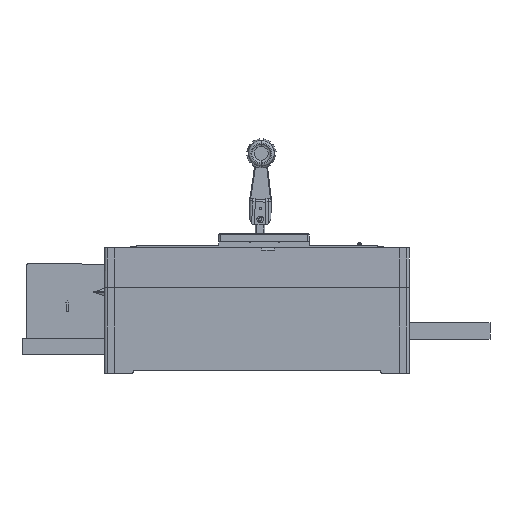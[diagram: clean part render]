
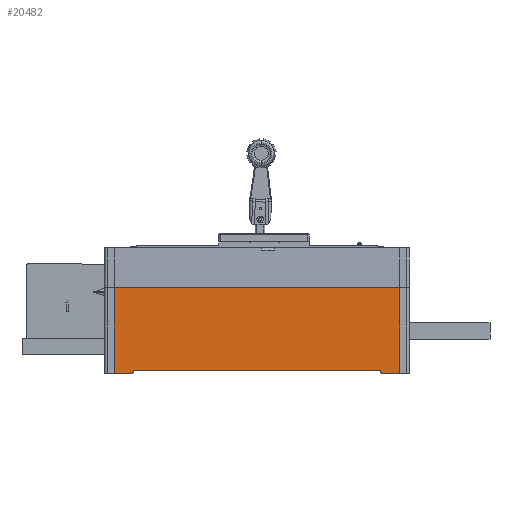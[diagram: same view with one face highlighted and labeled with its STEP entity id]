
A CAD part, front view. The second image highlights one B-rep face of the part: STEP entity #20482.
In plain terms, the highlighted planar face has unit normal (0, -1, 0).
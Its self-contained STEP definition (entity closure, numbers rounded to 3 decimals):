
#4249=CIRCLE('',#140536,3.);
#4250=CIRCLE('',#140537,3.);
#20482=ADVANCED_FACE('',(#30952),#24575,.T.);
#24575=PLANE('',#140538);
#30952=FACE_OUTER_BOUND('',#38611,.T.);
#38611=EDGE_LOOP('',(#73852,#73853,#73854,#73855,#73856,#73857,#73858,#73859));
#73852=ORIENTED_EDGE('',*,*,#106391,.T.);
#73853=ORIENTED_EDGE('',*,*,#106364,.F.);
#73854=ORIENTED_EDGE('',*,*,#106390,.F.);
#73855=ORIENTED_EDGE('',*,*,#106168,.F.);
#73856=ORIENTED_EDGE('',*,*,#106392,.T.);
#73857=ORIENTED_EDGE('',*,*,#106393,.F.);
#73858=ORIENTED_EDGE('',*,*,#106394,.T.);
#73859=ORIENTED_EDGE('',*,*,#105804,.F.);
#87829=VERTEX_POINT('',#228165);
#87830=VERTEX_POINT('',#228167);
#88115=VERTEX_POINT('',#228908);
#88116=VERTEX_POINT('',#228910);
#88287=VERTEX_POINT('',#229301);
#88288=VERTEX_POINT('',#229303);
#88293=VERTEX_POINT('',#229361);
#88294=VERTEX_POINT('',#229363);
#105804=EDGE_CURVE('',#87829,#87830,#118444,.T.);
#106168=EDGE_CURVE('',#88115,#88116,#118677,.T.);
#106364=EDGE_CURVE('',#88287,#88288,#118801,.T.);
#106390=EDGE_CURVE('',#88116,#88287,#118824,.T.);
#106391=EDGE_CURVE('',#87829,#88288,#4249,.T.);
#106392=EDGE_CURVE('',#88115,#88293,#118825,.T.);
#106393=EDGE_CURVE('',#88294,#88293,#118826,.T.);
#106394=EDGE_CURVE('',#88294,#87830,#4250,.T.);
#118444=LINE('',#228166,#132155);
#118677=LINE('',#228909,#132388);
#118801=LINE('',#229302,#132512);
#118824=LINE('',#229357,#132535);
#118825=LINE('',#229360,#132536);
#118826=LINE('',#229362,#132537);
#132155=VECTOR('',#167917,1.);
#132388=VECTOR('',#168566,1.);
#132512=VECTOR('',#168884,1.);
#132535=VECTOR('',#168949,1.);
#132536=VECTOR('',#168954,1.);
#132537=VECTOR('',#168955,1.);
#140536=AXIS2_PLACEMENT_3D('',#229359,#168952,#168953);
#140537=AXIS2_PLACEMENT_3D('',#229364,#168956,#168957);
#140538=AXIS2_PLACEMENT_3D('',#229365,#168958,#168959);
#167917=DIRECTION('',(-1.,0.,0.));
#168566=DIRECTION('',(1.,0.,0.));
#168884=DIRECTION('',(-1.,0.,0.));
#168949=DIRECTION('',(0.,0.,-1.));
#168952=DIRECTION('',(0.,-1.,0.));
#168953=DIRECTION('',(-1.,0.,0.));
#168954=DIRECTION('',(0.,0.,-1.));
#168955=DIRECTION('',(-1.,0.,0.));
#168956=DIRECTION('',(0.,-1.,0.));
#168957=DIRECTION('',(0.,0.,-1.));
#168958=DIRECTION('',(0.,-1.,0.));
#168959=DIRECTION('',(0.,0.,1.));
#228165=CARTESIAN_POINT('',(142.406,-97.836,-54.5));
#228166=CARTESIAN_POINT('',(142.406,-97.836,-54.5));
#228167=CARTESIAN_POINT('',(-157.594,-97.836,-54.5));
#228908=CARTESIAN_POINT('',(-180.844,-97.836,46.5));
#228909=CARTESIAN_POINT('',(-180.844,-97.836,46.5));
#228910=CARTESIAN_POINT('',(165.656,-97.836,46.5));
#229301=CARTESIAN_POINT('',(165.656,-97.836,-57.5));
#229302=CARTESIAN_POINT('',(165.656,-97.836,-57.5));
#229303=CARTESIAN_POINT('',(145.406,-97.836,-57.5));
#229357=CARTESIAN_POINT('',(165.656,-97.836,46.5));
#229359=CARTESIAN_POINT('',(145.406,-97.836,-54.5));
#229360=CARTESIAN_POINT('',(-180.844,-97.836,46.5));
#229361=CARTESIAN_POINT('',(-180.844,-97.836,-57.5));
#229362=CARTESIAN_POINT('',(-160.594,-97.836,-57.5));
#229363=CARTESIAN_POINT('',(-160.594,-97.836,-57.5));
#229364=CARTESIAN_POINT('',(-160.594,-97.836,-54.5));
#229365=CARTESIAN_POINT('',(-7.594,-97.836,-53.5));
